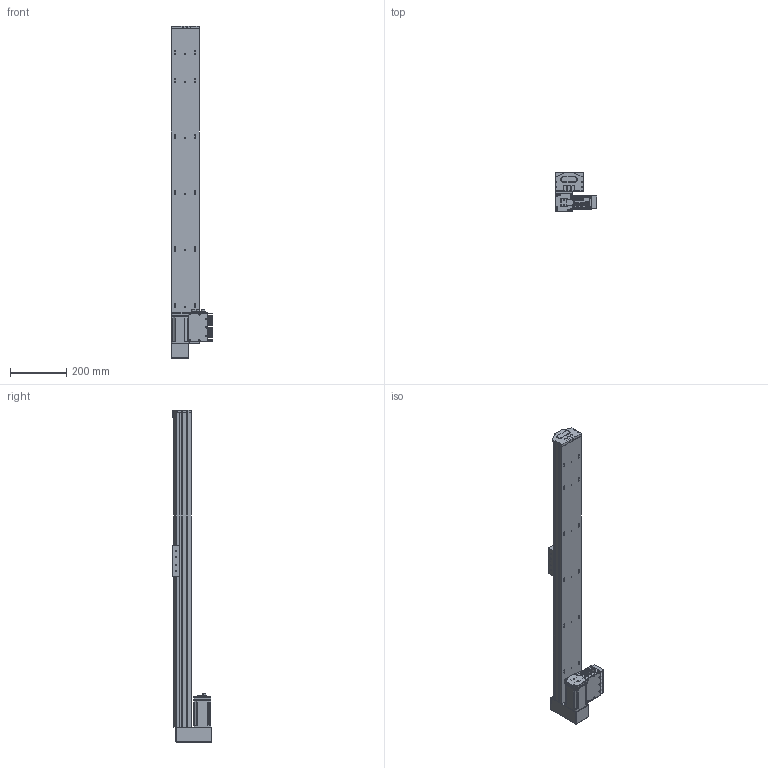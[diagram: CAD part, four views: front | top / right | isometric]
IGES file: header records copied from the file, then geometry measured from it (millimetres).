
Start section: SolidWorks IGES file using analytic representation for surfaces
Global section: file name: C:\Documents and Settings\1EDPI\Mes documents\yanize\S 10 TSH BM\S 10 TSH BM S900.IGS; native system: SolidWorks 2010; preprocessor: SolidWorks 2010; author: 1EDPI; date: 120907.135215; units: millimetre
Bounding box: 149.38 x 138.75 x 1182 mm (x, y, z)
Surface area: 841715.9 mm2 (no closed solid volume)
Topology: 0 solids, 0 shells, 2006 faces, 27340 edges, 27308 vertices
Faces by surface type: revolution 1071, bspline 935
